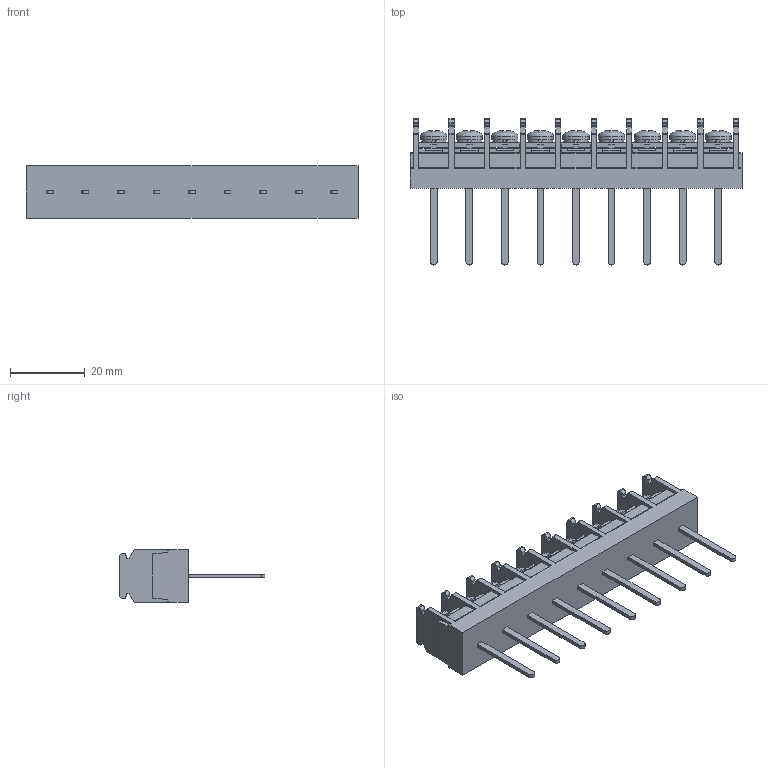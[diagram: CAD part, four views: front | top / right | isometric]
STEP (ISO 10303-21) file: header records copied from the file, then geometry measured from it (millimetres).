
FILE_DESCRIPTION(/* description */ ('Alibre Inc.'),/* implementation_level */ '2;1');
FILE_NAME(/* name */ 'export-B99D8832-5CC6-4041-8040-01C3399ED303',/* time_stamp */ '2021-02-13T15:16:21+09:00',/* author */ (''),/* organization */ (''),/* preprocessor_version */ 'ST-DEVELOPER v17',/* originating_system */ 'Alibre',/* authorisation */ '');
FILE_SCHEMA (('CONFIG_CONTROL_DESIGN'));
Length unit declared in the file: millimetre
Bounding box: 88.7 x 39 x 14 mm (x, y, z)
Volume: 15308.9 mm3; surface area: 11033.1 mm2
Topology: 1 solids, 26 shells, 1446 faces, 4059 edges, 2667 vertices
Faces by surface type: plane 1074, cylinder 196, bspline 104, cone 45, torus 18, sphere 9
Full cylindrical faces by diameter (mm): 4 x18, 7 x9
Entity records: 44368 total; most frequent: CARTESIAN_POINT 9120, ORIENTED_EDGE 7974, DIRECTION 5811, EDGE_CURVE 3987, VECTOR 2897, LINE 2897, VERTEX_POINT 2649, AXIS2_PLACEMENT_3D 1966
